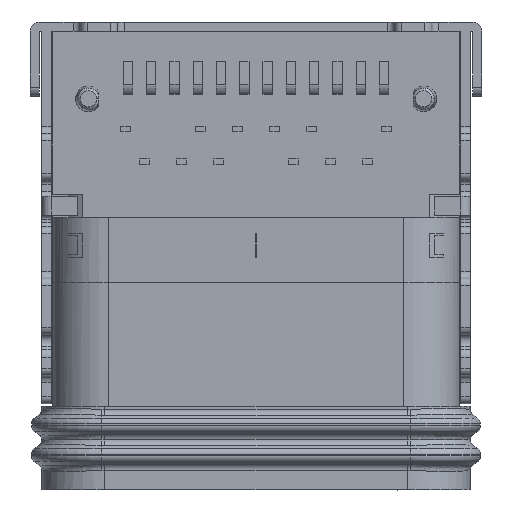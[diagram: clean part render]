
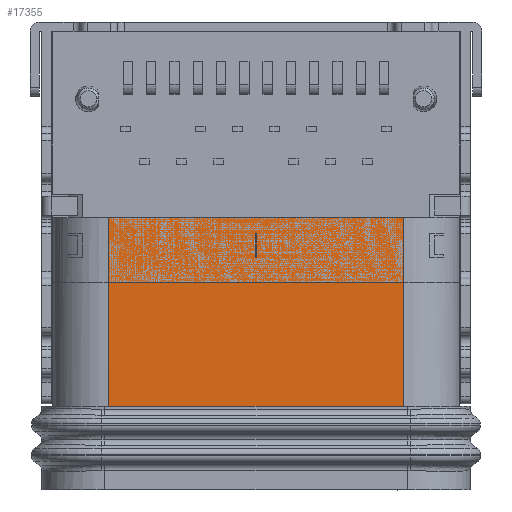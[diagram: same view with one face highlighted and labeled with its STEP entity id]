
A CAD part, front view. The second image highlights one B-rep face of the part: STEP entity #17355.
In plain terms, the highlighted planar face has unit normal (0, -1, 0).
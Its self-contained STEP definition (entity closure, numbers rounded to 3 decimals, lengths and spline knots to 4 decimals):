
#4575=DIRECTION('',(1.,0.,0.));
#4576=VECTOR('',#4575,6.34);
#4577=CARTESIAN_POINT('',(-3.17,-1.48,5.));
#4578=LINE('',#4577,#4576);
#4579=DIRECTION('',(0.,0.,-1.));
#4580=VECTOR('',#4579,5.85);
#4581=CARTESIAN_POINT('',(3.17,-1.48,5.));
#4582=LINE('',#4581,#4580);
#4583=DIRECTION('',(-1.,0.,0.));
#4584=VECTOR('',#4583,6.34);
#4585=CARTESIAN_POINT('',(3.17,-1.48,-0.85));
#4586=LINE('',#4585,#4584);
#4587=DIRECTION('',(0.,0.,1.));
#4588=VECTOR('',#4587,5.85);
#4589=CARTESIAN_POINT('',(-3.17,-1.48,-0.85));
#4590=LINE('',#4589,#4588);
#10597=CARTESIAN_POINT('',(3.17,-1.48,5.));
#10598=VERTEX_POINT('',#10597);
#10599=CARTESIAN_POINT('',(-3.17,-1.48,-0.85));
#10600=VERTEX_POINT('',#10599);
#10601=CARTESIAN_POINT('',(3.17,-1.48,-0.85));
#10602=VERTEX_POINT('',#10601);
#10619=CARTESIAN_POINT('',(-3.17,-1.48,5.));
#10620=VERTEX_POINT('',#10619);
#17343=CARTESIAN_POINT('',(0.,-1.48,2.075));
#17344=DIRECTION('',(0.,1.,0.));
#17345=DIRECTION('',(1.,0.,0.));
#17346=AXIS2_PLACEMENT_3D('',#17343,#17344,#17345);
#17347=PLANE('',#17346);
#17348=ORIENTED_EDGE('',*,*,#14251,.T.);
#17350=ORIENTED_EDGE('',*,*,#17349,.T.);
#17351=ORIENTED_EDGE('',*,*,#17317,.T.);
#17352=ORIENTED_EDGE('',*,*,#14229,.T.);
#17353=EDGE_LOOP('',(#17348,#17350,#17351,#17352));
#17354=FACE_OUTER_BOUND('',#17353,.F.);
#14229=EDGE_CURVE('',#10600,#10620,#4590,.T.);
#14251=EDGE_CURVE('',#10620,#10598,#4578,.T.);
#17317=EDGE_CURVE('',#10602,#10600,#4586,.T.);
#17349=EDGE_CURVE('',#10598,#10602,#4582,.T.);
#17355=ADVANCED_FACE('',(#17354),#17347,.F.);
